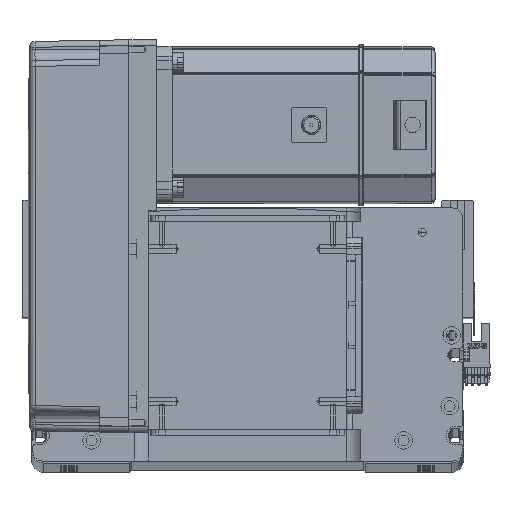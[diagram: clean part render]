
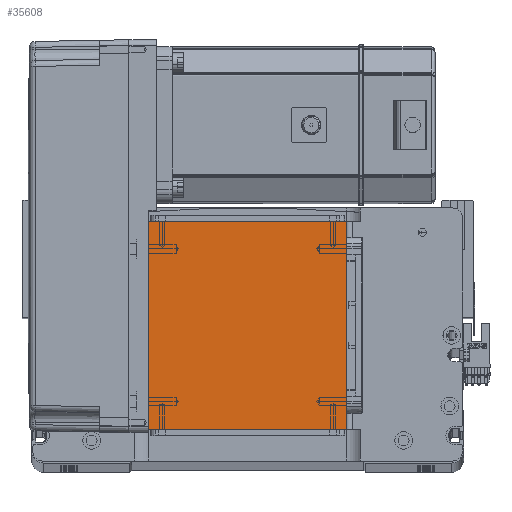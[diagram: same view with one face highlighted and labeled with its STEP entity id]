
A CAD part, top view. The second image highlights one B-rep face of the part: STEP entity #35608.
In plain terms, the highlighted planar face has unit normal (0, 0, 1).
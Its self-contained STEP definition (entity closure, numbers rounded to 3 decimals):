
#376 = DIRECTION ( 'NONE',  ( 0., 0., 1. ) ) ;
#3325 = ORIENTED_EDGE ( 'NONE', *, *, #8856, .T. ) ;
#3494 = CARTESIAN_POINT ( 'NONE',  ( -50.5, 122., 115. ) ) ;
#8856 = EDGE_CURVE ( 'NONE', #42569, #14267, #38858, .T. ) ;
#8988 = VECTOR ( 'NONE', #36792, 1000. ) ;
#9316 = DIRECTION ( 'NONE',  ( 0., 1., 0. ) ) ;
#13010 = VERTEX_POINT ( 'NONE', #41916 ) ;
#14119 = EDGE_CURVE ( 'NONE', #14267, #13010, #30189, .T. ) ;
#14267 = VERTEX_POINT ( 'NONE', #45403 ) ;
#16794 = CARTESIAN_POINT ( 'NONE',  ( -50.5, 122., 115. ) ) ;
#17465 = PLANE ( 'NONE',  #48769 ) ;
#18186 = CARTESIAN_POINT ( 'NONE',  ( -50.5, 122., 115. ) ) ;
#18417 = VECTOR ( 'NONE', #9316, 1000. ) ;
#18811 = ORIENTED_EDGE ( 'NONE', *, *, #21148, .T. ) ;
#21148 = EDGE_CURVE ( 'NONE', #45124, #42569, #56044, .T. ) ;
#24316 = VECTOR ( 'NONE', #36648, 1000. ) ;
#25787 = CARTESIAN_POINT ( 'NONE',  ( -50.5, 16., 115. ) ) ;
#26353 = FACE_OUTER_BOUND ( 'NONE', #53709, .T. ) ;
#28993 = VECTOR ( 'NONE', #47729, 1000. ) ;
#30189 = LINE ( 'NONE', #35948, #18417 ) ;
#35608 = ADVANCED_FACE ( 'NONE', ( #26353 ), #17465, .T. ) ;
#35948 = CARTESIAN_POINT ( 'NONE',  ( 50.5, 122., 115. ) ) ;
#36648 = DIRECTION ( 'NONE',  ( -1., 0., 0. ) ) ;
#36792 = DIRECTION ( 'NONE',  ( 1., 0., 0. ) ) ;
#37353 = CARTESIAN_POINT ( 'NONE',  ( -50.5, 16., 115. ) ) ;
#37901 = ORIENTED_EDGE ( 'NONE', *, *, #54777, .T. ) ;
#38289 = ORIENTED_EDGE ( 'NONE', *, *, #14119, .T. ) ;
#38858 = LINE ( 'NONE', #37353, #8988 ) ;
#41916 = CARTESIAN_POINT ( 'NONE',  ( 50.5, 122., 115. ) ) ;
#42569 = VERTEX_POINT ( 'NONE', #25787 ) ;
#45124 = VERTEX_POINT ( 'NONE', #16794 ) ;
#45403 = CARTESIAN_POINT ( 'NONE',  ( 50.5, 16., 115. ) ) ;
#47729 = DIRECTION ( 'NONE',  ( 0., -1., 0. ) ) ;
#48769 = AXIS2_PLACEMENT_3D ( 'NONE', #49080, #376, #57433 ) ;
#49080 = CARTESIAN_POINT ( 'NONE',  ( 0., 0., 115. ) ) ;
#49333 = LINE ( 'NONE', #18186, #24316 ) ;
#53709 = EDGE_LOOP ( 'NONE', ( #18811, #3325, #38289, #37901 ) ) ;
#54777 = EDGE_CURVE ( 'NONE', #13010, #45124, #49333, .T. ) ;
#56044 = LINE ( 'NONE', #3494, #28993 ) ;
#57433 = DIRECTION ( 'NONE',  ( 1., 0., 0. ) ) ;
